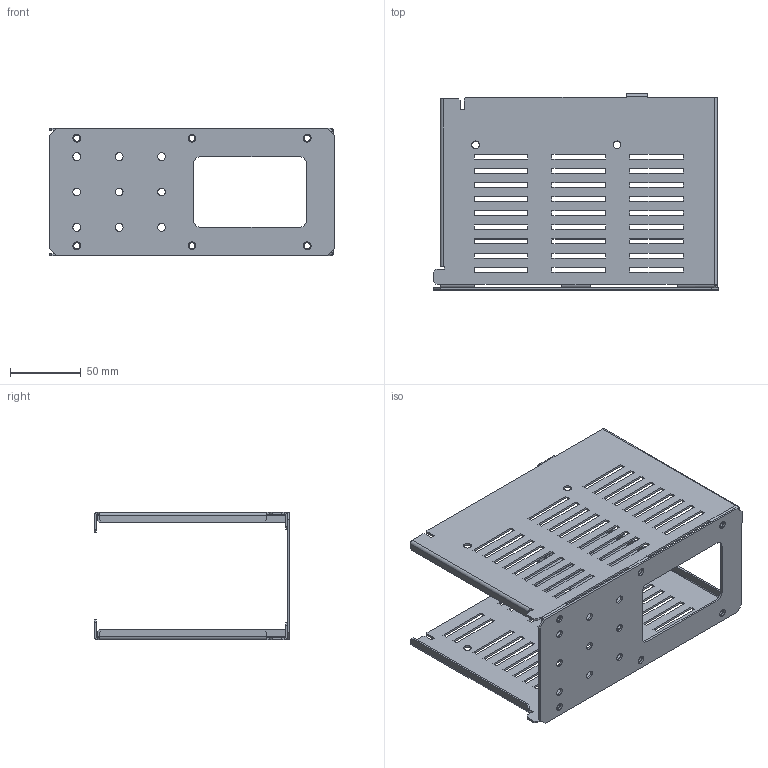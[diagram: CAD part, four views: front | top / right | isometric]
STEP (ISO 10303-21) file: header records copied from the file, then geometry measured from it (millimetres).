
FILE_DESCRIPTION(('CAx-IF Rec.Pracs.---Model Styling and Organization---1.2---2011-12-15','CAx-IF Rec.Pracs.---Geometric and Assembly Validation Properties---4.1---2014-06-16','CAx-IF Rec.Pracs.---PMI Polyline Presentation---2.0---2013-05-24'),'2;1');
FILE_NAME('R5M2W2MRT3C.stp','2021-05-05T13:04:24+03:00',(''),(''),'STEP Interface 4.4 by CT CoreTechnologie','3D_Evolution4.4 by CT CoreTechnologie','');
FILE_SCHEMA(('AUTOMOTIVE_DESIGN { 1 0 10303 214 1 1 1 1 }'));
Length unit declared in the file: millimetre
Products named in the file (4): R5M2W2MRT3C; RB.1465.00.00.0_-00; RB.1468.00.00.0_-00; RB.1465.00.00.0_-01
Assembly tree (3 placements, depth 2):
  R5M2W2MRT3C
    RB.1465.00.00.0_-00
    RB.1468.00.00.0_-00
    RB.1465.00.00.0_-01
Bounding box: 202 x 138.5 x 90 mm (x, y, z)
Surface area: 135785.4 mm2 (no closed solid volume)
Topology: 0 solids, 3 shells, 458 faces, 1338 edges, 886 vertices
Faces by surface type: plane 372, cylinder 82, bspline 4
Entity records: 15615 total; most frequent: CARTESIAN_POINT 2832, ORIENTED_EDGE 2676, DIRECTION 2408, EDGE_CURVE 1338, VECTOR 1172, LINE 1172, VERTEX_POINT 886, EDGE_LOOP 634
